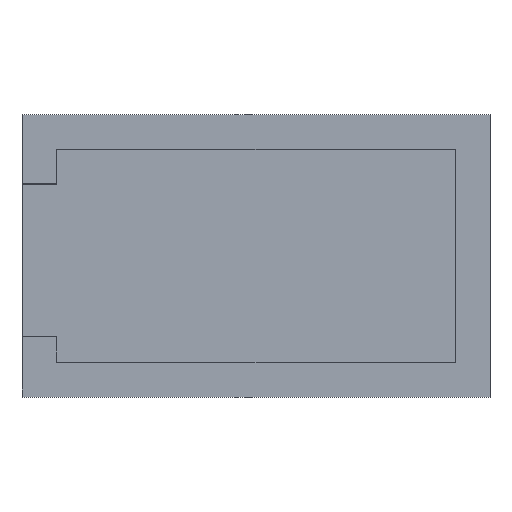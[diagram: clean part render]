
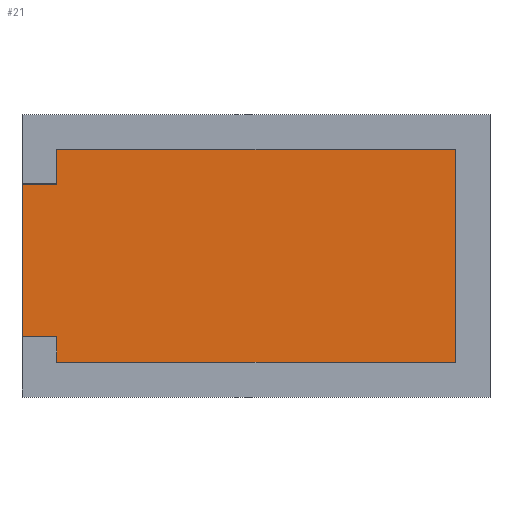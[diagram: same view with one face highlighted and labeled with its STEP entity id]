
A CAD part, top view. The second image highlights one B-rep face of the part: STEP entity #21.
In plain terms, the highlighted planar face has unit normal (0, 0, 1).
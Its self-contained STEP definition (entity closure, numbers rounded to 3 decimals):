
#21=ADVANCED_FACE('',(#51),#428,.T.);
#51=FACE_OUTER_BOUND('',#81,.T.);
#81=EDGE_LOOP('',(#128,#129,#130,#131,#132,#133,#134,#135));
#128=ORIENTED_EDGE('',*,*,#258,.F.);
#129=ORIENTED_EDGE('',*,*,#255,.F.);
#130=ORIENTED_EDGE('',*,*,#270,.F.);
#131=ORIENTED_EDGE('',*,*,#266,.F.);
#132=ORIENTED_EDGE('',*,*,#267,.F.);
#133=ORIENTED_EDGE('',*,*,#268,.F.);
#134=ORIENTED_EDGE('',*,*,#250,.F.);
#135=ORIENTED_EDGE('',*,*,#246,.F.);
#246=EDGE_CURVE('',#406,#407,#324,.T.);
#250=EDGE_CURVE('',#407,#408,#328,.T.);
#255=EDGE_CURVE('',#415,#409,#333,.T.);
#258=EDGE_CURVE('',#409,#406,#336,.T.);
#266=EDGE_CURVE('',#413,#416,#343,.T.);
#267=EDGE_CURVE('',#412,#413,#344,.T.);
#268=EDGE_CURVE('',#408,#412,#345,.T.);
#270=EDGE_CURVE('',#416,#415,#347,.T.);
#324=B_SPLINE_CURVE_WITH_KNOTS('',1,(#699,#700),.UNSPECIFIED.,.F.,.F.,(2,
2),(0.,1.5),.UNSPECIFIED.);
#328=B_SPLINE_CURVE_WITH_KNOTS('',1,(#707,#708),.UNSPECIFIED.,.F.,.F.,(2,
2),(1.5,3.5),.UNSPECIFIED.);
#333=B_SPLINE_CURVE_WITH_KNOTS('',1,(#717,#718),.UNSPECIFIED.,.F.,.F.,(2,
2),(50.3,62.6),.UNSPECIFIED.);
#336=B_SPLINE_CURVE_WITH_KNOTS('',1,(#723,#724),.UNSPECIFIED.,.F.,.F.,(2,
2),(62.6,85.6),.UNSPECIFIED.);
#343=B_SPLINE_CURVE_WITH_KNOTS('',1,(#738,#739),.UNSPECIFIED.,.F.,.F.,(2,
2),(-8.,-6.),.UNSPECIFIED.);
#344=B_SPLINE_CURVE_WITH_KNOTS('',1,(#740,#741),.UNSPECIFIED.,.F.,.F.,(2,
2),(-2.,0.),.UNSPECIFIED.);
#345=B_SPLINE_CURVE_WITH_KNOTS('',1,(#742,#743),.UNSPECIFIED.,.F.,.F.,(2,
2),(-10.8,-2.),.UNSPECIFIED.);
#347=B_SPLINE_CURVE_WITH_KNOTS('',1,(#746,#747),.UNSPECIFIED.,.F.,.F.,(2,
2),(-80.6,-57.6),.UNSPECIFIED.);
#406=VERTEX_POINT('',#676);
#407=VERTEX_POINT('',#677);
#408=VERTEX_POINT('',#678);
#409=VERTEX_POINT('',#679);
#412=VERTEX_POINT('',#682);
#413=VERTEX_POINT('',#683);
#415=VERTEX_POINT('',#685);
#416=VERTEX_POINT('',#686);
#428=PLANE('',#544);
#544=AXIS2_PLACEMENT_3D('',#625,#582,$);
#582=DIRECTION('',(0.,0.,1.));
#625=CARTESIAN_POINT('',(-1800.203,1445.367,0.));
#676=CARTESIAN_POINT('',(-1798.203,1433.067,0.));
#677=CARTESIAN_POINT('',(-1798.203,1434.567,0.));
#678=CARTESIAN_POINT('',(-1800.203,1434.567,0.));
#679=CARTESIAN_POINT('',(-1775.203,1433.067,0.));
#682=CARTESIAN_POINT('',(-1800.203,1443.367,0.));
#683=CARTESIAN_POINT('',(-1798.203,1443.367,0.));
#685=CARTESIAN_POINT('',(-1775.203,1445.367,0.));
#686=CARTESIAN_POINT('',(-1798.203,1445.367,0.));
#699=CARTESIAN_POINT('',(-1798.203,1433.067,0.));
#700=CARTESIAN_POINT('',(-1798.203,1434.567,0.));
#707=CARTESIAN_POINT('',(-1798.203,1434.567,0.));
#708=CARTESIAN_POINT('',(-1800.203,1434.567,0.));
#717=CARTESIAN_POINT('',(-1775.203,1445.367,0.));
#718=CARTESIAN_POINT('',(-1775.203,1433.067,0.));
#723=CARTESIAN_POINT('',(-1775.203,1433.067,0.));
#724=CARTESIAN_POINT('',(-1798.203,1433.067,0.));
#738=CARTESIAN_POINT('',(-1798.203,1443.367,0.));
#739=CARTESIAN_POINT('',(-1798.203,1445.367,0.));
#740=CARTESIAN_POINT('',(-1800.203,1443.367,0.));
#741=CARTESIAN_POINT('',(-1798.203,1443.367,0.));
#742=CARTESIAN_POINT('',(-1800.203,1434.567,0.));
#743=CARTESIAN_POINT('',(-1800.203,1443.367,0.));
#746=CARTESIAN_POINT('',(-1798.203,1445.367,0.));
#747=CARTESIAN_POINT('',(-1775.203,1445.367,0.));
